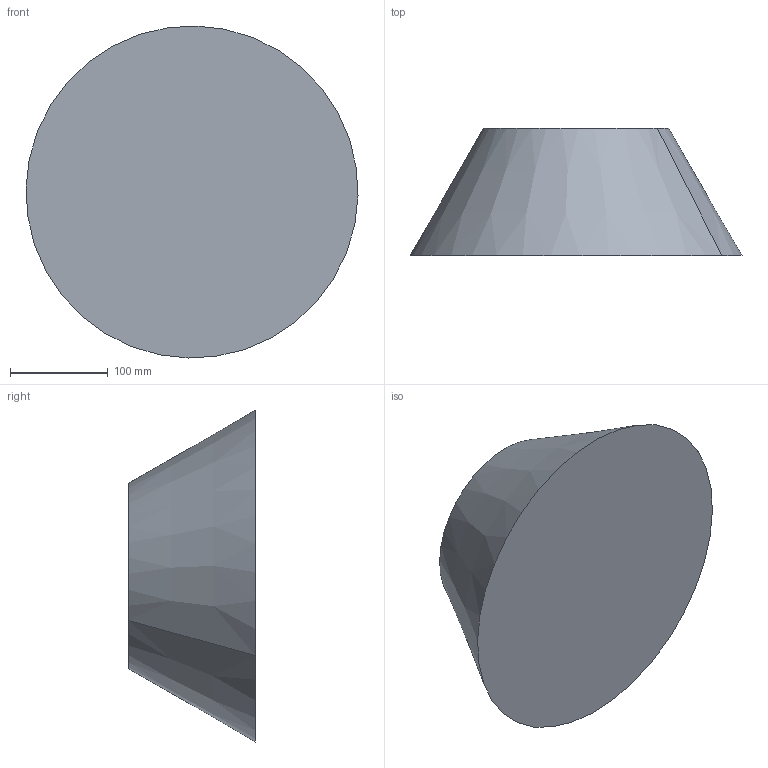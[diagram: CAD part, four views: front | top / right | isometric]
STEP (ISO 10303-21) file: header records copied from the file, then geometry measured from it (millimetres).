
FILE_DESCRIPTION(('CATIA V5 STEP Exchange'),'2;1');
FILE_NAME('C:\_Andres\UNIVERSIDAD\IQS\ASIGNATURAS\DAO\EXF\EXF-16172c\2inicio\Salazar_Martin_Ej09_v30.stp','2017-03-05T22:13:14+00:00',('none'),('none'),'CATIA Version 5-6 Release 2014 SP1 HF18','CATIA V5 STEP AP203','none');
FILE_SCHEMA(('CONFIG_CONTROL_DESIGN'));
Length unit declared in the file: millimetre
Products named in the file (1): Salazar_Martin_Ej09_v30
Bounding box: 339.91 x 130 x 339.91 mm (x, y, z)
Volume: 7350961.7 mm3; surface area: 246255.5 mm2
Topology: 1 solids, 2 shells, 8 faces, 12 edges, 8 vertices
Faces by surface type: plane 4, cone 2, cylinder 2
Entity records: 205 total; most frequent: CARTESIAN_POINT 27, DIRECTION 24, ORIENTED_EDGE 24, AXIS2_PLACEMENT_3D 15, EDGE_CURVE 12, ADVANCED_FACE 8, CIRCLE 8, EDGE_LOOP 8
